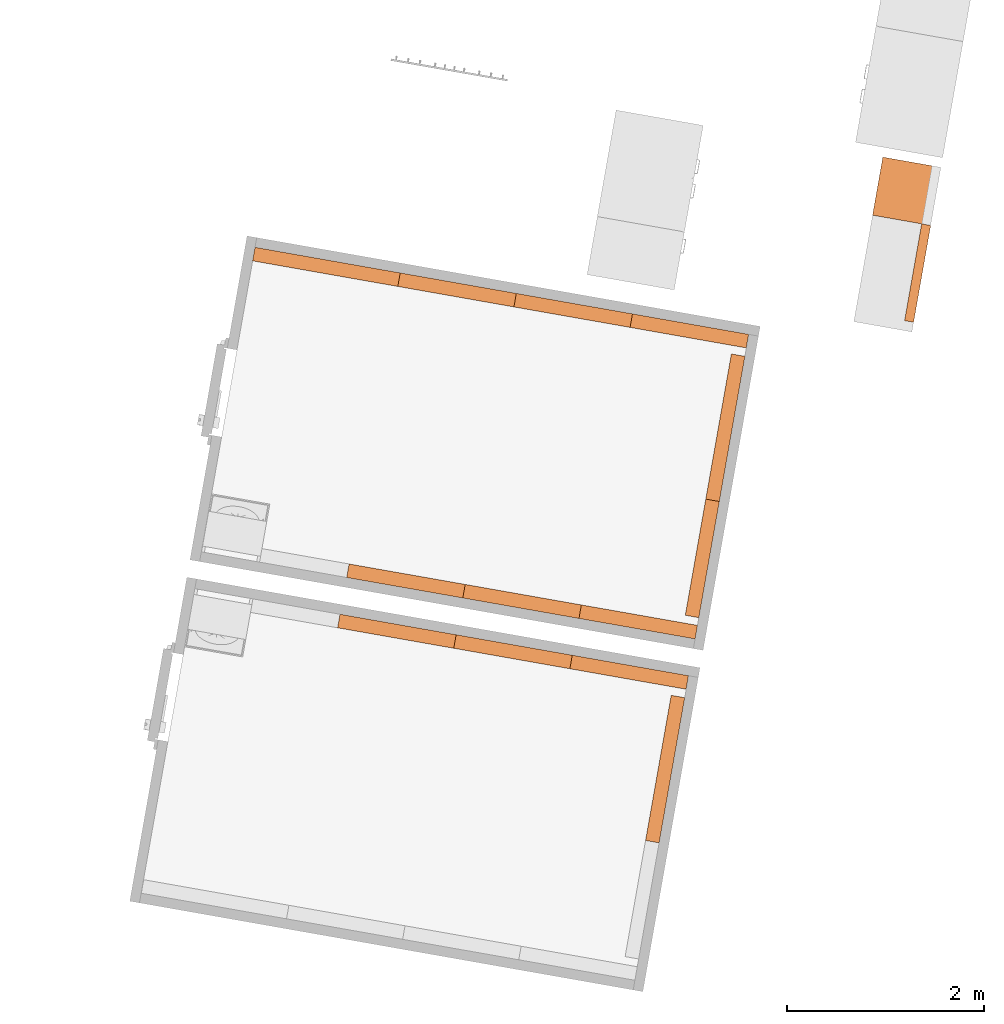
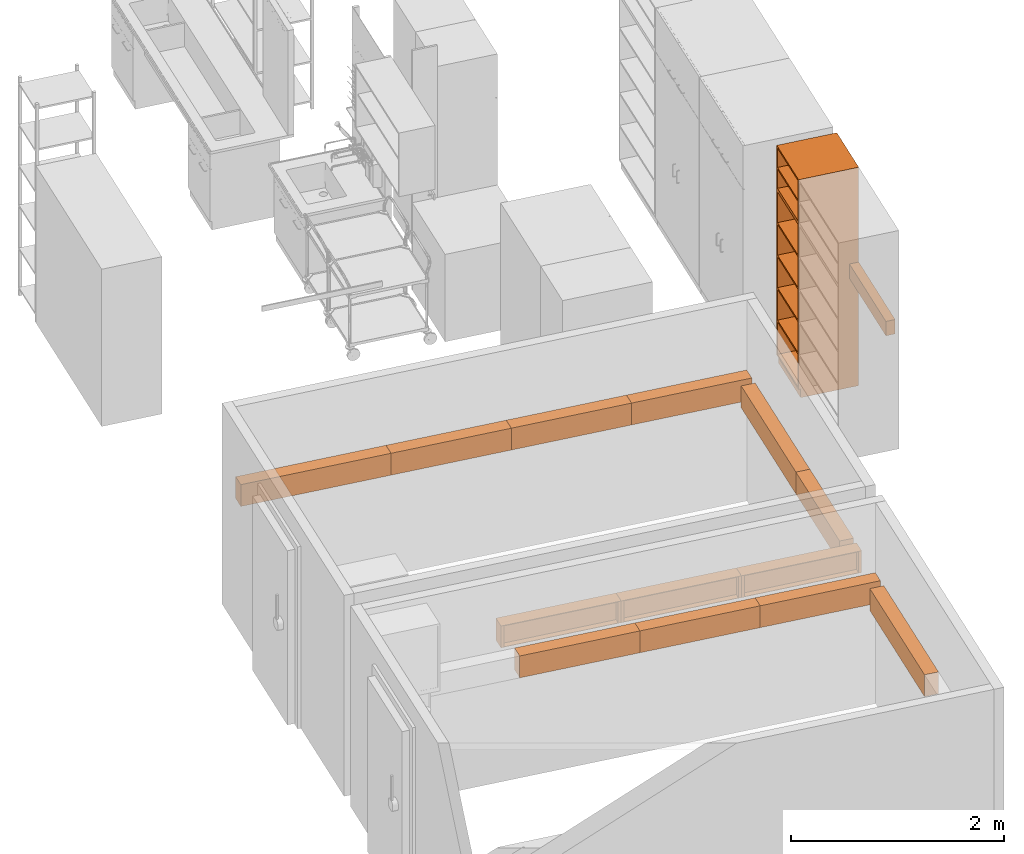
# One storey, part 11 of 32: 15 proxies.
"""IFC2X3 building model written with IfcOpenShell, lengths in metres."""

from ifc_helpers import new_model, entity, si_unit, converted_unit, derived_unit, direction, frame, frame_2d, origin, origin_2d_with_axis, place, context, subcontext, project, spatial, rectangle, extrude, faceted_brep, source, transform, mapped, material, material_list, type_object, type_shapes, element, save


model = new_model("IFC2X3")

# Units and contexts
model_context = context("Model", 3, precision=1e-05, world=origin(), true_north=direction((6.12303176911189e-17, 1.0)))
body_context = subcontext(model_context, "Body", "Model", "MODEL_VIEW")
ifc_project = project(units=[si_unit("LENGTHUNIT", "METRE"), si_unit("AREAUNIT", "SQUARE_METRE"), si_unit("VOLUMEUNIT", "CUBIC_METRE"), converted_unit("PLANEANGLEUNIT", "DEGREE", entity("IfcRatioMeasure", 0.0174532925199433), si_unit("PLANEANGLEUNIT", "RADIAN"), dimensions=[0, 0, 0, 0, 0, 0, 0]), si_unit("MASSUNIT", "GRAM", prefix="KILO"), derived_unit("MASSDENSITYUNIT", [(si_unit("MASSUNIT", "GRAM", prefix="KILO"), 1), (si_unit("LENGTHUNIT", "METRE"), -3)]), derived_unit("MOMENTOFINERTIAUNIT", [(si_unit("LENGTHUNIT", "METRE"), 4)]), si_unit("TIMEUNIT", "SECOND"), si_unit("FREQUENCYUNIT", "HERTZ"), si_unit("THERMODYNAMICTEMPERATUREUNIT", "DEGREE_CELSIUS"), derived_unit("THERMALTRANSMITTANCEUNIT", [(si_unit("MASSUNIT", "GRAM", prefix="KILO"), 1), (si_unit("THERMODYNAMICTEMPERATUREUNIT", "KELVIN"), -1), (si_unit("TIMEUNIT", "SECOND"), -3)]), derived_unit("VOLUMETRICFLOWRATEUNIT", [(si_unit("LENGTHUNIT", "METRE"), 3), (si_unit("TIMEUNIT", "SECOND"), -1)]), si_unit("ELECTRICCURRENTUNIT", "AMPERE"), si_unit("ELECTRICVOLTAGEUNIT", "VOLT"), si_unit("POWERUNIT", "WATT"), si_unit("FORCEUNIT", "NEWTON", prefix="KILO"), si_unit("ILLUMINANCEUNIT", "LUX"), si_unit("LUMINOUSFLUXUNIT", "LUMEN"), si_unit("LUMINOUSINTENSITYUNIT", "CANDELA"), derived_unit("USERDEFINED", [(si_unit("MASSUNIT", "GRAM", prefix="KILO"), -1), (si_unit("LENGTHUNIT", "METRE"), -2), (si_unit("TIMEUNIT", "SECOND"), 3), (si_unit("LUMINOUSFLUXUNIT", "LUMEN"), 1)]), derived_unit("LINEARVELOCITYUNIT", [(si_unit("LENGTHUNIT", "METRE"), 1), (si_unit("TIMEUNIT", "SECOND"), -1)]), si_unit("PRESSUREUNIT", "PASCAL"), derived_unit("USERDEFINED", [(si_unit("LENGTHUNIT", "METRE"), -2), (si_unit("MASSUNIT", "GRAM", prefix="KILO"), 1), (si_unit("TIMEUNIT", "SECOND"), -2)]), derived_unit("LINEARFORCEUNIT", [(si_unit("MASSUNIT", "GRAM", prefix="KILO"), 1), (si_unit("LENGTHUNIT", "METRE"), 1), (si_unit("TIMEUNIT", "SECOND"), -2), (si_unit("LENGTHUNIT", "METRE"), -1)]), derived_unit("PLANARFORCEUNIT", [(si_unit("MASSUNIT", "GRAM", prefix="KILO"), 1), (si_unit("LENGTHUNIT", "METRE"), 1), (si_unit("TIMEUNIT", "SECOND"), -2), (si_unit("LENGTHUNIT", "METRE"), -2)])], contexts=[model_context])

# Site, building, storey
site_placement = place(None, origin())
site = spatial("IfcSite", under=ifc_project, at=site_placement, Name="Default", CompositionType="ELEMENT")
building_placement = place(site_placement, origin())
building = spatial("IfcBuilding", under=site, at=building_placement, CompositionType="ELEMENT")
storey_placement = place(building_placement, origin())
storey = spatial("IfcBuildingStorey", under=building, at=storey_placement, Name="00 EG", CompositionType="ELEMENT", Elevation=0.0)

# Proxies
ifc_material_1 = material(Name="dh_EZ blau")
ifc_material_2 = material(Name="dh_Weiß")
ifc_material_list_1 = material_list([ifc_material_1, ifc_material_2])
ifc_material_3 = material(Name="dh_Blau")
ifc_material_list_2 = material_list([ifc_material_2, ifc_material_3, ifc_material_1])
building_element_proxy_type_1 = type_object("IfcBuildingElementProxyType", Name="dh_Einzel_ MEK:MEK 150", PredefinedType="NOTDEFINED", material=ifc_material_list_2)
shared_shape_1 = source(origin(), body_context, "Body", "SweptSolid", [
    extrude(rectangle(XDim=0.06, YDim=0.0299999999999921, at=origin_2d_with_axis()), frame((0.885000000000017, 0.33, 1.25499999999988), z_axis=(0.0, 0.0, 1.0), x_axis=(0.0, 1.0, 0.0)), (0.0, 0.0, 1.0), 0.240000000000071),
    extrude(rectangle(XDim=0.06, YDim=0.0299999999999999, at=origin_2d_with_axis()), frame((-0.584999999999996, 0.33, 1.25499999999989), z_axis=(0.0, 0.0, 1.0), x_axis=(0.0, 1.0, 0.0)), (0.0, 0.0, 1.0), 0.240000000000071),
    extrude(rectangle(XDim=0.06, YDim=1.50000000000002, at=origin_2d_with_axis()), frame((0.150000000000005, 0.33, 1.49499999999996), z_axis=(0.0, 0.0, 1.0), x_axis=(0.0, 1.0, 0.0)), (0.0, 0.0, 1.0), 0.00499999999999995),
    extrude(rectangle(XDim=1.50000000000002, YDim=0.14, at=frame_2d((-2.4980018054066e-15, -0.00333333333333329), x_axis=(1.0, 0.0))), frame((0.150000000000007, 0.293333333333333, 1.24999999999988)), (0.0, 0.0, 1.0), 0.00499999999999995),
    extrude(rectangle(XDim=0.08, YDim=1.50000000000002, at=frame_2d((0.0133333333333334, 0.0), x_axis=(1.0, 0.0))), frame((0.150000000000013, 0.273333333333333, 1.49499999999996), z_axis=(0.0, 0.0, 1.0), x_axis=(0.0, -1.0, 0.0)), (0.0, 0.0, 1.0), 0.00499999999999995),
    extrude(rectangle(XDim=1.5, YDim=0.08, at=origin_2d_with_axis()), frame((0.15, 0.26, 1.25499999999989), z_axis=(0.0, 0.0, 1.0), x_axis=(-1.0, 0.0, 0.0)), (0.0, 0.0, 1.0), 0.24000000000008),
])
type_shapes(building_element_proxy_type_1, [shared_shape_1])
proxy_1_placement = place(storey_placement, frame((23.9375731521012, 13.2179547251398, 0.0), z_axis=(0.0, 0.0, 1.0), x_axis=(0.984807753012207, -0.173648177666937, 0.0)))
element("IfcBuildingElementProxy", 1, at=proxy_1_placement, inside=storey, type_object=building_element_proxy_type_1, material=ifc_material_list_1, Name="dh_Einzel_ MEK:MEK 150", ObjectType="dh_Einzel_ MEK:MEK 150", context=body_context, shape_type="MappedRepresentation", body=[
    mapped(shared_shape_1, transform((0.0, 0.0, 0.0), scale=1.0)),
])
ifc_material_list_3 = material_list([ifc_material_1, ifc_material_2])
proxy_2_placement = place(storey_placement, frame((27.9355531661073, 12.0387987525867, 0.0), z_axis=(0.0, 0.0, 1.0), x_axis=(-0.173648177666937, -0.984807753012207, 0.0)))
element("IfcBuildingElementProxy", 2, at=proxy_2_placement, inside=storey, type_object=building_element_proxy_type_1, material=ifc_material_list_3, Name="dh_Einzel_ MEK:MEK 150", ObjectType="dh_Einzel_ MEK:MEK 150", context=body_context, shape_type="MappedRepresentation", body=[
    mapped(shared_shape_1, transform((0.0, 0.0, 0.0), scale=1.0)),
])
ifc_material_list_4 = material_list([ifc_material_1, ifc_material_2])
proxy_3_placement = place(storey_placement, frame((27.323096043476, 8.56538180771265, 0.0), z_axis=(0.0, 0.0, 1.0), x_axis=(-0.173648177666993, -0.984807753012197, 0.0)))
element("IfcBuildingElementProxy", 3, at=proxy_3_placement, inside=storey, type_object=building_element_proxy_type_1, material=ifc_material_list_4, Name="dh_Einzel_ MEK:MEK 150", ObjectType="dh_Einzel_ MEK:MEK 150", context=body_context, shape_type="MappedRepresentation", body=[
    mapped(shared_shape_1, transform((0.0, 0.0, 0.0), scale=1.0)),
])
ifc_material_list_5 = material_list([ifc_material_1, ifc_material_2])
ifc_material_list_6 = material_list([ifc_material_2, ifc_material_3, ifc_material_1])
building_element_proxy_type_2 = type_object("IfcBuildingElementProxyType", Name="dh_Einzel_ MEK:MEK 120", PredefinedType="NOTDEFINED", material=ifc_material_list_6)
shared_shape_2 = source(origin(), body_context, "Body", "SweptSolid", [
    extrude(rectangle(XDim=0.06, YDim=0.0299999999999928, at=frame_2d((0.0, -6.76542155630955e-17), x_axis=(1.0, 0.0))), frame((0.585000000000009, 0.33, 1.25499999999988), z_axis=(0.0, 0.0, 1.0), x_axis=(0.0, 1.0, 0.0)), (0.0, 0.0, 1.0), 0.240000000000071),
    extrude(rectangle(XDim=0.06, YDim=0.0300000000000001, at=origin_2d_with_axis()), frame((-0.584999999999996, 0.33, 1.25499999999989), z_axis=(0.0, 0.0, 1.0), x_axis=(0.0, 1.0, 0.0)), (0.0, 0.0, 1.0), 0.240000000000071),
    extrude(rectangle(XDim=0.06, YDim=1.2, at=origin_2d_with_axis()), frame((0.0, 0.33, 1.49499999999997), z_axis=(0.0, 0.0, 1.0), x_axis=(0.0, 1.0, 0.0)), (0.0, 0.0, 1.0), 0.00499999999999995),
    extrude(rectangle(XDim=1.20000000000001, YDim=0.14, at=frame_2d((-1.49880108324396e-15, -0.00333333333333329), x_axis=(1.0, 0.0))), frame((0.0, 0.293333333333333, 1.24999999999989)), (0.0, 0.0, 1.0), 0.00499999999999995),
    extrude(rectangle(XDim=0.08, YDim=1.20000000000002, at=frame_2d((0.0133333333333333, 0.0), x_axis=(1.0, 0.0))), frame((0.0, 0.273333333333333, 1.49499999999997), z_axis=(0.0, 0.0, 1.0), x_axis=(0.0, -1.0, 0.0)), (0.0, 0.0, 1.0), 0.00499999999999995),
    extrude(rectangle(XDim=1.2, YDim=0.08, at=origin_2d_with_axis()), frame((0.0, 0.26, 1.25499999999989), z_axis=(0.0, 0.0, 1.0), x_axis=(-1.0, 0.0, 0.0)), (0.0, 0.0, 1.0), 0.24000000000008),
])
type_shapes(building_element_proxy_type_2, [shared_shape_2])
proxy_4_placement = place(storey_placement, frame((25.4147847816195, 12.9574824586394, 0.0), z_axis=(0.0, 0.0, 1.0), x_axis=(0.984807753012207, -0.173648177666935, 0.0)))
element("IfcBuildingElementProxy", 4, at=proxy_4_placement, inside=storey, type_object=building_element_proxy_type_2, material=ifc_material_list_5, Name="dh_Einzel_ MEK:MEK 120", ObjectType="dh_Einzel_ MEK:MEK 120", context=body_context, shape_type="MappedRepresentation", body=[
    mapped(shared_shape_2, transform((0.0, 0.0, 0.0), scale=1.0)),
])
ifc_material_list_7 = material_list([ifc_material_1, ifc_material_2])
proxy_5_placement = place(storey_placement, frame((26.5965540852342, 12.7491046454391, 0.0), z_axis=(0.0, 0.0, 1.0), x_axis=(0.984807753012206, -0.173648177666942, 0.0)))
element("IfcBuildingElementProxy", 5, at=proxy_5_placement, inside=storey, type_object=building_element_proxy_type_2, material=ifc_material_list_7, Name="dh_Einzel_ MEK:MEK 120", ObjectType="dh_Einzel_ MEK:MEK 120", context=body_context, shape_type="MappedRepresentation", body=[
    mapped(shared_shape_2, transform((0.0, 0.0, 0.0), scale=1.0)),
])
ifc_material_list_8 = material_list([ifc_material_1, ifc_material_2])
proxy_6_placement = place(storey_placement, frame((27.7783233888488, 12.5407268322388, 0.0), z_axis=(0.0, 0.0, 1.0), x_axis=(0.984807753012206, -0.173648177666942, 0.0)))
element("IfcBuildingElementProxy", 6, at=proxy_6_placement, inside=storey, type_object=building_element_proxy_type_2, material=ifc_material_list_8, Name="dh_Einzel_ MEK:MEK 120", ObjectType="dh_Einzel_ MEK:MEK 120", context=body_context, shape_type="MappedRepresentation", body=[
    mapped(shared_shape_2, transform((0.0, 0.0, 0.0), scale=1.0)),
])
ifc_material_list_9 = material_list([ifc_material_1, ifc_material_2])
proxy_7_placement = place(storey_placement, frame((27.6750808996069, 10.5615871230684, 0.0), z_axis=(0.0, 0.0, 1.0), x_axis=(-0.173648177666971, -0.984807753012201, 0.0)))
element("IfcBuildingElementProxy", 7, at=proxy_7_placement, inside=storey, type_object=building_element_proxy_type_2, material=ifc_material_list_9, Name="dh_Einzel_ MEK:MEK 120", ObjectType="dh_Einzel_ MEK:MEK 120", context=body_context, shape_type="MappedRepresentation", body=[
    mapped(shared_shape_2, transform((0.0, 0.0, 0.0), scale=1.0)),
])
ifc_material_list_10 = material_list([ifc_material_1, ifc_material_2])
proxy_8_placement = place(storey_placement, frame((27.3588488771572, 10.1502511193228, 0.0), z_axis=(0.0, 0.0, 1.0), x_axis=(-0.984807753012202, 0.173648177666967, 0.0)))
element("IfcBuildingElementProxy", 8, at=proxy_8_placement, inside=storey, type_object=building_element_proxy_type_2, material=ifc_material_list_10, Name="dh_Einzel_ MEK:MEK 120", ObjectType="dh_Einzel_ MEK:MEK 120", context=body_context, shape_type="MappedRepresentation", body=[
    mapped(shared_shape_2, transform((0.0, 0.0, 0.0), scale=1.0)),
])
ifc_material_list_11 = material_list([ifc_material_1, ifc_material_2])
proxy_9_placement = place(storey_placement, frame((26.1770795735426, 10.3586289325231, 0.0), z_axis=(0.0, 0.0, 1.0), x_axis=(-0.984807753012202, 0.173648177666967, 0.0)))
element("IfcBuildingElementProxy", 9, at=proxy_9_placement, inside=storey, type_object=building_element_proxy_type_2, material=ifc_material_list_11, Name="dh_Einzel_ MEK:MEK 120", ObjectType="dh_Einzel_ MEK:MEK 120", context=body_context, shape_type="MappedRepresentation", body=[
    mapped(shared_shape_2, transform((0.0, 0.0, 0.0), scale=1.0)),
])
ifc_material_list_12 = material_list([ifc_material_1, ifc_material_2])
proxy_10_placement = place(storey_placement, frame((24.995310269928, 10.5670067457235, 0.0), z_axis=(0.0, 0.0, 1.0), x_axis=(-0.984807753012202, 0.173648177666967, 0.0)))
element("IfcBuildingElementProxy", 10, at=proxy_10_placement, inside=storey, type_object=building_element_proxy_type_2, material=ifc_material_list_12, Name="dh_Einzel_ MEK:MEK 120", ObjectType="dh_Einzel_ MEK:MEK 120", context=body_context, shape_type="MappedRepresentation", body=[
    mapped(shared_shape_2, transform((0.0, 0.0, 0.0), scale=1.0)),
])
ifc_material_list_13 = material_list([ifc_material_1, ifc_material_2])
proxy_11_placement = place(storey_placement, frame((24.8023276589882, 9.48406551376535, 0.0), z_axis=(0.0, 0.0, 1.0), x_axis=(0.984807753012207, -0.173648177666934, 0.0)))
element("IfcBuildingElementProxy", 11, at=proxy_11_placement, inside=storey, type_object=building_element_proxy_type_2, material=ifc_material_list_13, Name="dh_Einzel_ MEK:MEK 120", ObjectType="dh_Einzel_ MEK:MEK 120", context=body_context, shape_type="MappedRepresentation", body=[
    mapped(shared_shape_2, transform((0.0, 0.0, 0.0), scale=1.0)),
])
ifc_material_list_14 = material_list([ifc_material_1, ifc_material_2])
proxy_12_placement = place(storey_placement, frame((25.9840969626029, 9.27568770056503, 0.0), z_axis=(0.0, 0.0, 1.0), x_axis=(0.984807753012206, -0.17364817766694, 0.0)))
element("IfcBuildingElementProxy", 12, at=proxy_12_placement, inside=storey, type_object=building_element_proxy_type_2, material=ifc_material_list_14, Name="dh_Einzel_ MEK:MEK 120", ObjectType="dh_Einzel_ MEK:MEK 120", context=body_context, shape_type="MappedRepresentation", body=[
    mapped(shared_shape_2, transform((0.0, 0.0, 0.0), scale=1.0)),
])
ifc_material_list_15 = material_list([ifc_material_1, ifc_material_2])
proxy_13_placement = place(storey_placement, frame((27.1658662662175, 9.0673098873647, 0.0), z_axis=(0.0, 0.0, 1.0), x_axis=(0.984807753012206, -0.17364817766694, 0.0)))
element("IfcBuildingElementProxy", 13, at=proxy_13_placement, inside=storey, type_object=building_element_proxy_type_2, material=ifc_material_list_15, Name="dh_Einzel_ MEK:MEK 120", ObjectType="dh_Einzel_ MEK:MEK 120", context=body_context, shape_type="MappedRepresentation", body=[
    mapped(shared_shape_2, transform((0.0, 0.0, 0.0), scale=1.0)),
])
ifc_material_4 = material(Name="dh_Weiss")
ifc_material_5 = material(Name="dh_Grau")
ifc_material_list_16 = material_list([ifc_material_4, ifc_material_5])
ifc_material_list_17 = material_list([ifc_material_4, ifc_material_5])
building_element_proxy_type_3 = type_object("IfcBuildingElementProxyType", Name="dh_Laborhochregal:600x600x2000", PredefinedType="NOTDEFINED", material=ifc_material_list_17)
shared_shape_3 = source(origin(), body_context, "Body", "Brep", [
    faceted_brep([(0.279999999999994, 0.279999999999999, 2.26), (-0.279999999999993, 0.279999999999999, 2.26), (-0.279999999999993, -0.3, 2.26), (0.279999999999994, -0.3, 2.26), (0.279999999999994, 0.279999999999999, 2.24), (0.279999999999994, -0.3, 2.24), (-0.279999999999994, -0.3, 2.24), (-0.279999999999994, 0.279999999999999, 2.24)], [[[0, 1, 2, 3]], [[4, 5, 6, 7]], [[1, 0, 4, 7]], [[2, 1, 7, 6]], [[3, 2, 6, 5]], [[0, 3, 5, 4]]]),
    faceted_brep([(0.3, -0.3, 2.5), (-0.3, -0.3, 2.5), (-0.3, -0.3, 2.0), (0.3, -0.3, 2.0), (-0.279999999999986, -0.3, 2.48), (0.279999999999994, -0.3, 2.48), (0.279999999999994, -0.3, 2.02), (-0.279999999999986, -0.3, 2.02), (0.3, 0.3, 2.0), (-0.3, 0.3, 2.0), (-0.3, 0.3, 2.5), (0.3, 0.3, 2.5), (0.279999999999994, 0.279999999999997, 2.02), (-0.279999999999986, 0.279999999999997, 2.02), (-0.279999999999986, 0.279999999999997, 2.48), (0.279999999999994, 0.279999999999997, 2.48)], [[[0, 1, 2, 3], [4, 5, 6, 7]], [[8, 9, 10, 11]], [[0, 3, 8, 11]], [[7, 6, 12, 13]], [[2, 1, 10, 9]], [[3, 2, 9, 8]], [[1, 0, 11, 10]], [[5, 4, 14, 15]], [[4, 7, 13, 14]], [[14, 13, 12, 15]], [[15, 12, 6, 5]]]),
    faceted_brep([(0.279999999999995, 0.279999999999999, 1.628), (-0.279999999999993, 0.279999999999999, 1.628), (-0.279999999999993, -0.3, 1.628), (0.279999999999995, -0.3, 1.628), (0.279999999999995, 0.279999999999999, 1.608), (0.279999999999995, -0.3, 1.608), (-0.279999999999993, -0.3, 1.608), (-0.279999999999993, 0.279999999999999, 1.608)], [[[0, 1, 2, 3]], [[4, 5, 6, 7]], [[1, 0, 4, 7]], [[2, 1, 7, 6]], [[3, 2, 6, 5]], [[0, 3, 5, 4]]]),
    faceted_brep([(0.279999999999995, 0.279999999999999, 1.256), (-0.279999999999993, 0.279999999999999, 1.256), (-0.279999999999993, -0.3, 1.256), (0.279999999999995, -0.3, 1.256), (0.279999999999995, 0.279999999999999, 1.236), (0.279999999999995, -0.3, 1.236), (-0.279999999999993, -0.3, 1.236), (-0.279999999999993, 0.279999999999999, 1.236)], [[[0, 1, 2, 3]], [[4, 5, 6, 7]], [[1, 0, 4, 7]], [[2, 1, 7, 6]], [[3, 2, 6, 5]], [[0, 3, 5, 4]]]),
    faceted_brep([(0.279999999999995, 0.279999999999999, 0.511999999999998), (-0.279999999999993, 0.279999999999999, 0.511999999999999), (-0.279999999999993, -0.3, 0.511999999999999), (0.279999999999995, -0.3, 0.511999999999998), (0.279999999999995, 0.279999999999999, 0.491999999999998), (0.279999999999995, -0.3, 0.491999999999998), (-0.279999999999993, -0.3, 0.491999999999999), (-0.279999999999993, 0.279999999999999, 0.491999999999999)], [[[0, 1, 2, 3]], [[4, 5, 6, 7]], [[1, 0, 4, 7]], [[2, 1, 7, 6]], [[3, 2, 6, 5]], [[0, 3, 5, 4]]]),
    faceted_brep([(0.279999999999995, 0.279999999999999, 0.883999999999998), (-0.279999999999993, 0.279999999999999, 0.884), (-0.279999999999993, -0.3, 0.884), (0.279999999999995, -0.3, 0.883999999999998), (0.279999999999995, 0.279999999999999, 0.863999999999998), (0.279999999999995, -0.3, 0.863999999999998), (-0.279999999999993, -0.3, 0.863999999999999), (-0.279999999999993, 0.279999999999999, 0.863999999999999)], [[[0, 1, 2, 3]], [[4, 5, 6, 7]], [[1, 0, 4, 7]], [[2, 1, 7, 6]], [[3, 2, 6, 5]], [[0, 3, 5, 4]]]),
    faceted_brep([(0.3, -0.3, 2.0), (-0.3, -0.3, 2.0), (-0.3, -0.3, 0.0999999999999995), (0.3, -0.3, 0.0999999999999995), (-0.279999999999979, -0.3, 1.98), (0.280000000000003, -0.3, 1.98), (0.280000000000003, -0.3, 0.12), (-0.279999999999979, -0.3, 0.12), (0.3, 0.3, 0.0999999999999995), (-0.3, 0.3, 0.0999999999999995), (-0.3, 0.3, 2.0), (0.3, 0.3, 2.0), (0.280000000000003, 0.279999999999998, 0.12), (-0.279999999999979, 0.279999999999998, 0.12), (-0.279999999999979, 0.279999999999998, 1.98), (0.280000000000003, 0.279999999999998, 1.98)], [[[0, 1, 2, 3], [4, 5, 6, 7]], [[8, 9, 10, 11]], [[0, 3, 8, 11]], [[7, 6, 12, 13]], [[2, 1, 10, 9]], [[3, 2, 9, 8]], [[1, 0, 11, 10]], [[5, 4, 14, 15]], [[4, 7, 13, 14]], [[14, 13, 12, 15]], [[15, 12, 6, 5]]]),
    faceted_brep([(0.3, 0.3, 0.0999999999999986), (-0.3, 0.3, 0.0999999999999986), (-0.3, -0.280000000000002, 0.0999999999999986), (0.3, -0.280000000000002, 0.0999999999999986), (0.3, 0.3, 0.0), (0.3, -0.280000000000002, 0.0), (-0.3, -0.280000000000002, 0.0), (-0.3, 0.3, 0.0)], [[[0, 1, 2, 3]], [[4, 5, 6, 7]], [[1, 0, 4, 7]], [[2, 1, 7, 6]], [[3, 2, 6, 5]], [[0, 3, 5, 4]]]),
])
type_shapes(building_element_proxy_type_3, [shared_shape_3])
proxy_14_placement = place(storey_placement, frame((30.0409446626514, 14.2467452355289, 0.0), z_axis=(0.0, 0.0, 1.0), x_axis=(-0.173648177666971, -0.984807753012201, 0.0)))
element("IfcBuildingElementProxy", 14, at=proxy_14_placement, inside=storey, type_object=building_element_proxy_type_3, material=ifc_material_list_16, Name="dh_Laborhochregal:600x600x2000", ObjectType="dh_Laborhochregal:600x600x2000", context=body_context, shape_type="MappedRepresentation", body=[
    mapped(shared_shape_3, transform((0.0, 0.0, 0.0), scale=1.0)),
])
building_element_proxy_type_4 = type_object("IfcBuildingElementProxyType", Name="dh_Einzel_ Elektrokanal:EK 100", PredefinedType="NOTDEFINED", material=ifc_material_2)
shared_shape_4 = source(origin(), body_context, "Body", "SweptSolid", [
    extrude(rectangle(XDim=1.00000000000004, YDim=0.093, at=frame_2d((-1.38777878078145e-15, -1.73472347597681e-17), x_axis=(1.0, 0.0))), frame((-0.0999999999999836, 0.2535, 1.24999999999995)), (0.0, 0.0, 1.0), 0.00499999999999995),
    extrude(rectangle(XDim=0.093, YDim=1.00000000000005, at=frame_2d((0.0155, 1.4432899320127e-15), x_axis=(1.0, 0.0))), frame((-0.0999999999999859, 0.269, 1.40999999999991), z_axis=(0.0, 0.0, 1.0), x_axis=(0.0, -1.0, 0.0)), (0.0, 0.0, 1.0), 0.00499999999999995),
    extrude(rectangle(XDim=1.0, YDim=0.093, at=frame_2d((0.0, 1.73472347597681e-17), x_axis=(1.0, 0.0))), frame((-0.0999999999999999, 0.2535, 1.25499999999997), z_axis=(0.0, 0.0, 1.0), x_axis=(-1.0, 0.0, 0.0)), (0.0, 0.0, 1.0), 0.154999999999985),
])
type_shapes(building_element_proxy_type_4, [shared_shape_4])
proxy_15_placement = place(storey_placement, frame((29.8846613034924, 13.3604180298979, 0.0), z_axis=(0.0, 0.0, 1.0), x_axis=(-0.173648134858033, -0.984807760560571, 0.0)))
element("IfcBuildingElementProxy", 15, at=proxy_15_placement, inside=storey, type_object=building_element_proxy_type_4, material=ifc_material_2, Name="dh_Einzel_ Elektrokanal:EK 100", ObjectType="dh_Einzel_ Elektrokanal:EK 100", context=body_context, shape_type="MappedRepresentation", body=[
    mapped(shared_shape_4, transform((0.0, 0.0, 0.0), scale=1.0)),
])

save(model, "model.ifc")
